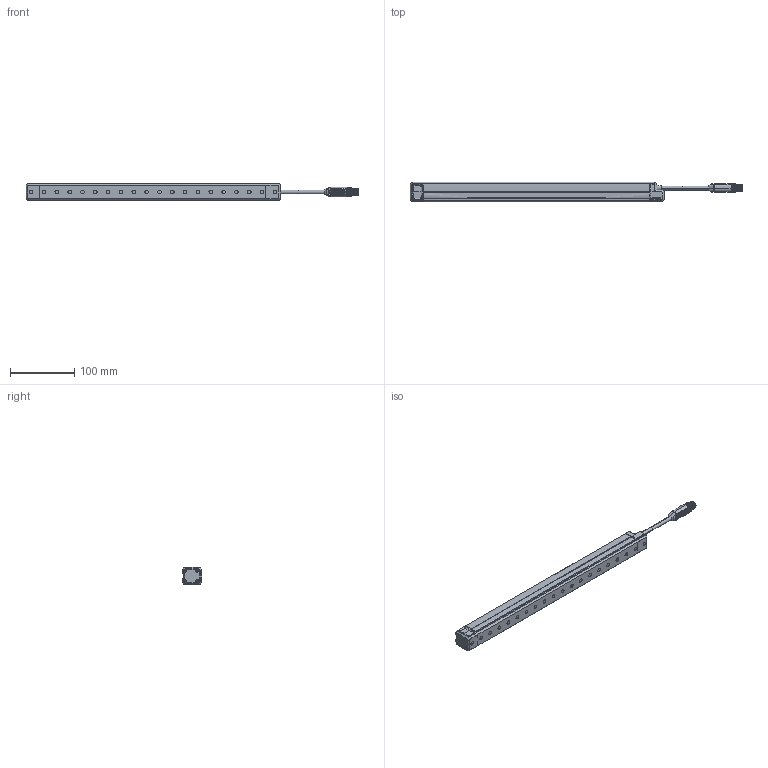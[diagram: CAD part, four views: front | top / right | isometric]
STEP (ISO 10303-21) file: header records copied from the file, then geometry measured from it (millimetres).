
FILE_DESCRIPTION((''),'2;1');
FILE_NAME('EFP-2020_ASM','2022-12-28T08:42:27',('18720616900'),(''),'CREO PARAMETRIC BY PTC INC, 2019010','CREO PARAMETRIC BY PTC INC, 2019010','');
FILE_SCHEMA(('CONFIG_CONTROL_DESIGN'));
Products named in the file (9): EFP-3-_A; EFP-3-_AF; EFP2-0; M26-14; M26-30; _0002; _0001_ASM; EFP-2020_ASM
Assembly tree (14 placements, depth 3):
  EFP-2020_ASM
    EFP-3-_A
    EFP-3-_AF
    EFP-3-_AF
    EFP2-0
    M26-14  x2
    M26-30  x6
    _0001_ASM
      _0002
Bounding box: 517.47 x 30 x 28.01 mm (x, y, z)
Volume: 286568.6 mm3; surface area: 78785.6 mm2
Topology: 13 solids, 649 shells, 2974 faces, 9631 edges, 7357 vertices
Faces by surface type: bspline 1174, plane 721, cone 450, cylinder 402, extrusion 161, torus 60, revolution 4, sphere 2
Entity records: 139918 total; most frequent: CARTESIAN_POINT 81156, ORIENTED_EDGE 11716, DIRECTION 8673, EDGE_CURVE 7815, VERTEX_POINT 6236, VECTOR 3987, LINE 3826, B_SPLINE_CURVE_WITH_KNOTS 3082
